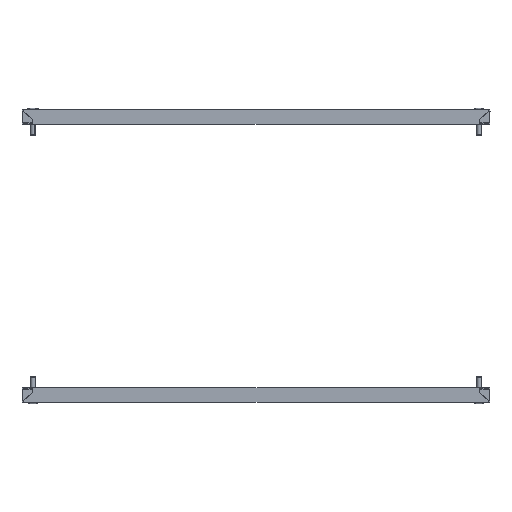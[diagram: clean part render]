
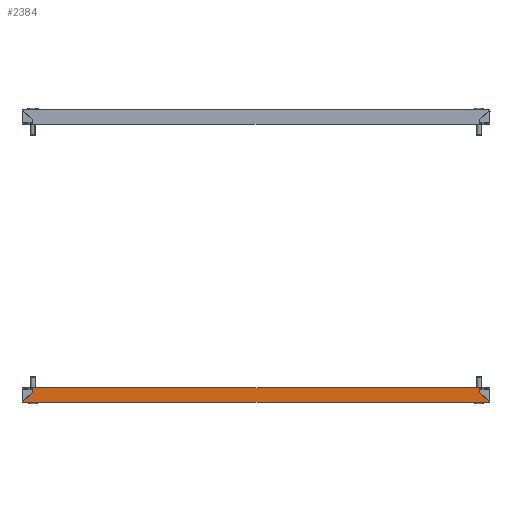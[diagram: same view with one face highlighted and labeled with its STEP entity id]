
A CAD part, front view. The second image highlights one B-rep face of the part: STEP entity #2384.
In plain terms, the highlighted planar face has unit normal (0, -1, 0).
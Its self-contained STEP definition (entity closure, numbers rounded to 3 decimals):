
#40 = CARTESIAN_POINT ( 'NONE',  ( 286., -50., 11.646 ) ) ;
#179 = VERTEX_POINT ( 'NONE', #7328 ) ;
#405 = CARTESIAN_POINT ( 'NONE',  ( -297.084, -50., 0.251 ) ) ;
#619 = LINE ( 'NONE', #9727, #9731 ) ;
#687 = ORIENTED_EDGE ( 'NONE', *, *, #8538, .T. ) ;
#803 = EDGE_CURVE ( 'NONE', #6351, #179, #4570, .T. ) ;
#844 = CARTESIAN_POINT ( 'NONE',  ( -286., -50., 11.646 ) ) ;
#1162 = CARTESIAN_POINT ( 'NONE',  ( -297.046, -50., 0.6 ) ) ;
#1281 = CARTESIAN_POINT ( 'NONE',  ( 286., -50., 17.5 ) ) ;
#1324 = DIRECTION ( 'NONE',  ( 0., 0., 1. ) ) ;
#1338 = CARTESIAN_POINT ( 'NONE',  ( -297.046, -50., 0.6 ) ) ;
#1565 = ORIENTED_EDGE ( 'NONE', *, *, #803, .F. ) ;
#2348 = EDGE_CURVE ( 'NONE', #9628, #6195, #5296, .T. ) ;
#2376 = DIRECTION ( 'NONE',  ( 0., 0., -1. ) ) ;
#2384 = ADVANCED_FACE ( 'NONE', ( #3536 ), #9876, .F. ) ;
#2656 = VECTOR ( 'NONE', #7383, 1000. ) ;
#2711 = DIRECTION ( 'NONE',  ( -1., 0., 0. ) ) ;
#2809 = VERTEX_POINT ( 'NONE', #40 ) ;
#2927 = DIRECTION ( 'NONE',  ( 0., 0., 1. ) ) ;
#3212 = VECTOR ( 'NONE', #4489, 1000. ) ;
#3324 = DIRECTION ( 'NONE',  ( 0.707, 0., -0.707 ) ) ;
#3475 = CARTESIAN_POINT ( 'NONE',  ( -297.121, -50., -0.099 ) ) ;
#3518 = CARTESIAN_POINT ( 'NONE',  ( 297.223, -50., -1.5 ) ) ;
#3532 = VERTEX_POINT ( 'NONE', #1281 ) ;
#3533 = AXIS2_PLACEMENT_3D ( 'NONE', #5961, #4289, #2927 ) ;
#3536 = FACE_OUTER_BOUND ( 'NONE', #9217, .T. ) ;
#3558 = ORIENTED_EDGE ( 'NONE', *, *, #6789, .T. ) ;
#3843 = ORIENTED_EDGE ( 'NONE', *, *, #7073, .F. ) ;
#4289 = DIRECTION ( 'NONE',  ( 0., 1., 0. ) ) ;
#4316 = CARTESIAN_POINT ( 'NONE',  ( 0., -50., -1.5 ) ) ;
#4321 = CARTESIAN_POINT ( 'NONE',  ( 297.121, -50., -0.099 ) ) ;
#4339 = VERTEX_POINT ( 'NONE', #7815 ) ;
#4372 = CARTESIAN_POINT ( 'NONE',  ( 297.046, -50., 0.6 ) ) ;
#4489 = DIRECTION ( 'NONE',  ( 0.707, 0., 0.707 ) ) ;
#4531 = VERTEX_POINT ( 'NONE', #8768 ) ;
#4570 = B_SPLINE_CURVE_WITH_KNOTS ( 'NONE', 3,
 ( #4372, #8198, #4321, #4929, #4983, #3518 ),
 .UNSPECIFIED., .F., .F.,
 ( 4, 2, 4 ),
 ( 0.005, 0.006, 0.008 ),
 .UNSPECIFIED. ) ;
#4899 = EDGE_CURVE ( 'NONE', #3532, #4531, #9460, .T. ) ;
#4929 = CARTESIAN_POINT ( 'NONE',  ( 297.181, -50., -0.799 ) ) ;
#4983 = CARTESIAN_POINT ( 'NONE',  ( 297.204, -50., -1.149 ) ) ;
#5032 = VECTOR ( 'NONE', #2711, 1000. ) ;
#5147 = CARTESIAN_POINT ( 'NONE',  ( -297.046, -50., 0.6 ) ) ;
#5222 = ORIENTED_EDGE ( 'NONE', *, *, #8977, .T. ) ;
#5296 = LINE ( 'NONE', #5147, #3212 ) ;
#5538 = LINE ( 'NONE', #6459, #6677 ) ;
#5796 = CARTESIAN_POINT ( 'NONE',  ( -297.204, -50., -1.149 ) ) ;
#5961 = CARTESIAN_POINT ( 'NONE',  ( 0., -50., 0. ) ) ;
#6195 = VERTEX_POINT ( 'NONE', #844 ) ;
#6351 = VERTEX_POINT ( 'NONE', #7188 ) ;
#6459 = CARTESIAN_POINT ( 'NONE',  ( -123.212, -50., 420.858 ) ) ;
#6551 = ORIENTED_EDGE ( 'NONE', *, *, #4899, .T. ) ;
#6677 = VECTOR ( 'NONE', #3324, 1000. ) ;
#6701 = LINE ( 'NONE', #4316, #2656 ) ;
#6789 = EDGE_CURVE ( 'NONE', #4531, #6195, #8318, .T. ) ;
#7070 = B_SPLINE_CURVE_WITH_KNOTS ( 'NONE', 3,
 ( #1162, #405, #3475, #9615, #5796, #7594 ),
 .UNSPECIFIED., .F., .F.,
 ( 4, 2, 4 ),
 ( 0.005, 0.006, 0.008 ),
 .UNSPECIFIED. ) ;
#7073 = EDGE_CURVE ( 'NONE', #2809, #6351, #5538, .T. ) ;
#7188 = CARTESIAN_POINT ( 'NONE',  ( 297.046, -50., 0.6 ) ) ;
#7328 = CARTESIAN_POINT ( 'NONE',  ( 297.223, -50., -1.5 ) ) ;
#7383 = DIRECTION ( 'NONE',  ( 1., 0., 0. ) ) ;
#7594 = CARTESIAN_POINT ( 'NONE',  ( -297.223, -50., -1.5 ) ) ;
#7815 = CARTESIAN_POINT ( 'NONE',  ( -297.223, -50., -1.5 ) ) ;
#7946 = EDGE_CURVE ( 'NONE', #2809, #3532, #619, .T. ) ;
#8197 = ORIENTED_EDGE ( 'NONE', *, *, #7946, .T. ) ;
#8198 = CARTESIAN_POINT ( 'NONE',  ( 297.084, -50., 0.251 ) ) ;
#8318 = LINE ( 'NONE', #9877, #9064 ) ;
#8538 = EDGE_CURVE ( 'NONE', #9628, #4339, #7070, .T. ) ;
#8707 = CARTESIAN_POINT ( 'NONE',  ( 0., -50., 17.5 ) ) ;
#8768 = CARTESIAN_POINT ( 'NONE',  ( -286., -50., 17.5 ) ) ;
#8977 = EDGE_CURVE ( 'NONE', #4339, #179, #6701, .T. ) ;
#9064 = VECTOR ( 'NONE', #2376, 1000. ) ;
#9217 = EDGE_LOOP ( 'NONE', ( #3843, #8197, #6551, #3558, #9512, #687, #5222, #1565 ) ) ;
#9460 = LINE ( 'NONE', #8707, #5032 ) ;
#9512 = ORIENTED_EDGE ( 'NONE', *, *, #2348, .F. ) ;
#9615 = CARTESIAN_POINT ( 'NONE',  ( -297.181, -50., -0.799 ) ) ;
#9628 = VERTEX_POINT ( 'NONE', #1338 ) ;
#9727 = CARTESIAN_POINT ( 'NONE',  ( 286., -50., 11.646 ) ) ;
#9731 = VECTOR ( 'NONE', #1324, 1000. ) ;
#9876 = PLANE ( 'NONE',  #3533 ) ;
#9877 = CARTESIAN_POINT ( 'NONE',  ( -286., -50., 11.646 ) ) ;
